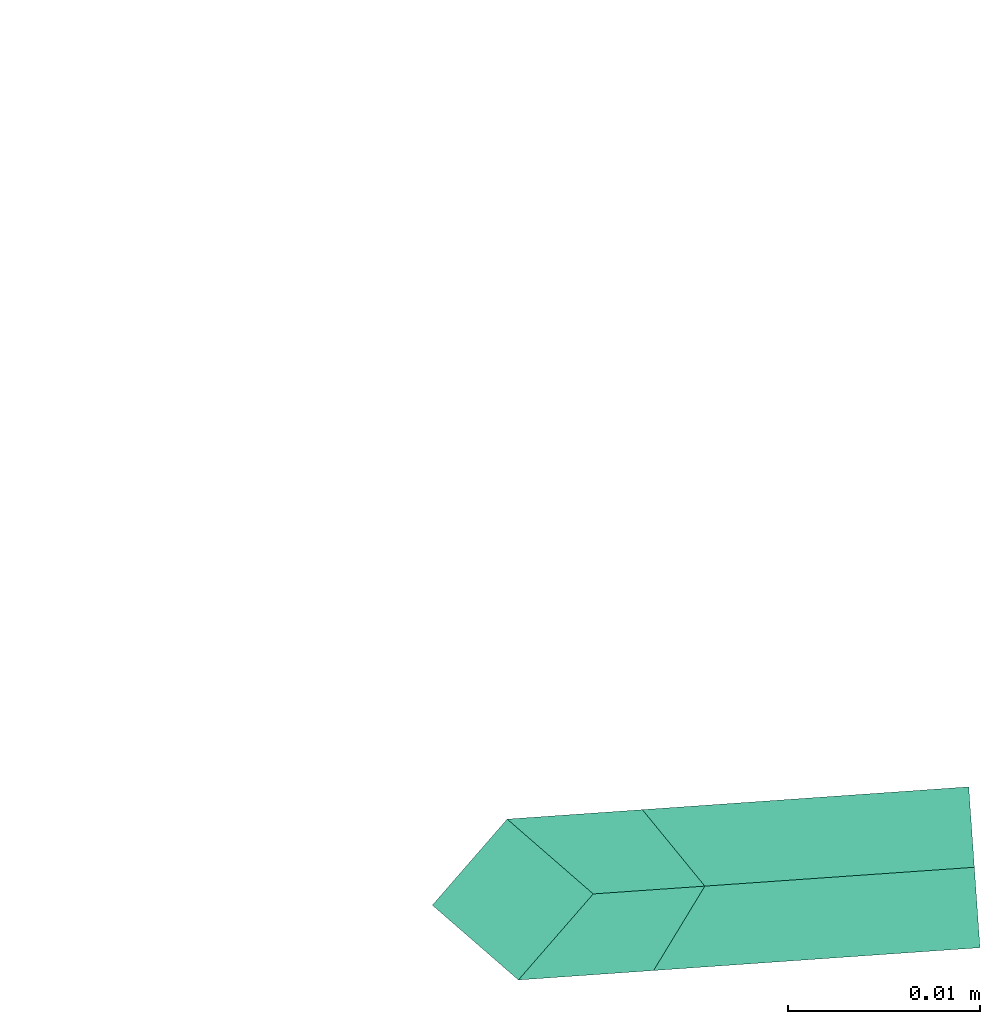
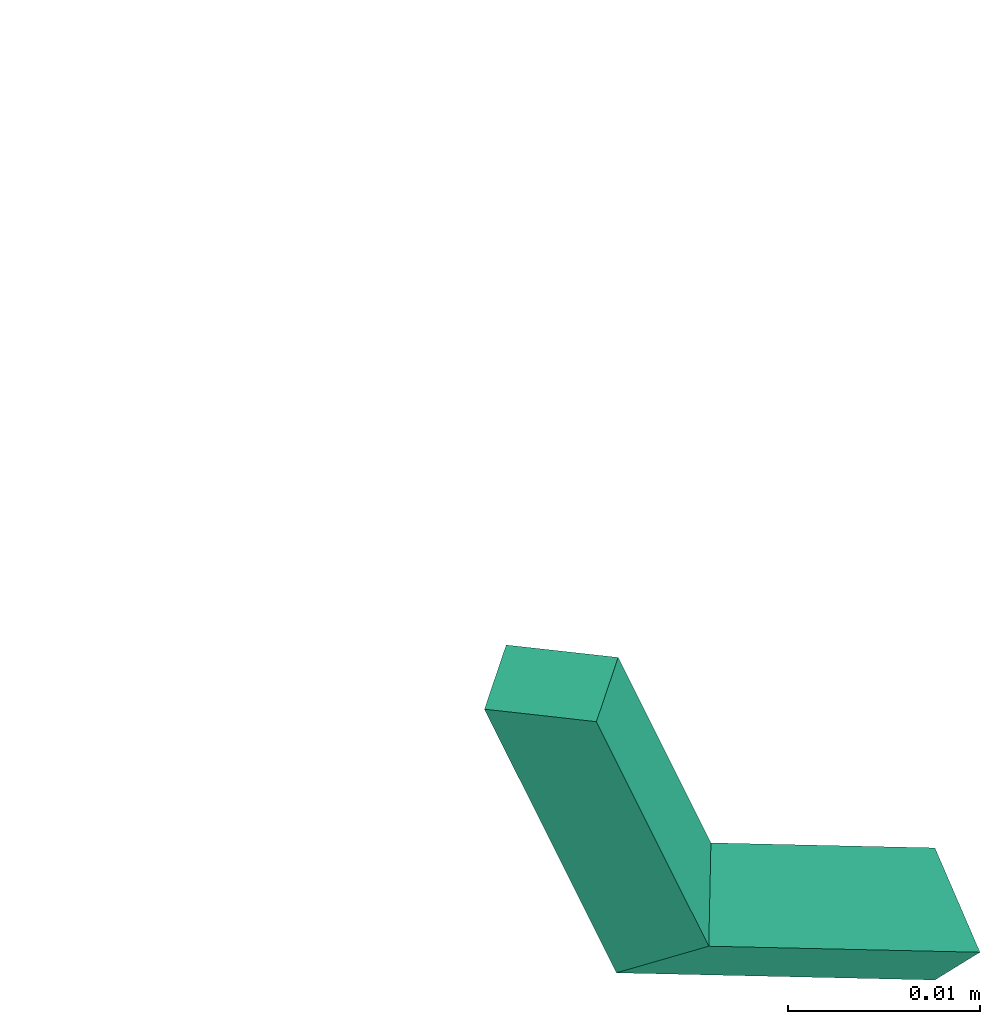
# One storey, part 5 of 8: 1 flow fitting.
"""IFC2X3 building model written with IfcOpenShell, lengths in metres."""

from ifc_helpers import new_model, entity, si_unit, converted_unit, derived_unit, direction, frame, origin, place, context, subcontext, project, spatial, faceted_brep, source, transform, mapped, material, type_object, type_shapes, element, save


model = new_model("IFC2X3")

# Units and contexts
model_context = context("Model", 3, precision=1e-05, world=origin(), true_north=direction((6.123031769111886e-17, 1.0)))
body_context = subcontext(model_context, "Body", "Model", "MODEL_VIEW")
ifc_project = project(units=[si_unit("LENGTHUNIT", "METRE"), si_unit("AREAUNIT", "SQUARE_METRE"), si_unit("VOLUMEUNIT", "CUBIC_METRE"), converted_unit("PLANEANGLEUNIT", "DEGREE", entity("IfcPlaneAngleMeasure", 0.017453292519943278), si_unit("PLANEANGLEUNIT", "RADIAN"), dimensions=[0, 0, 0, 0, 0, 0, 0]), si_unit("MASSUNIT", "GRAM", prefix="KILO"), derived_unit("MASSDENSITYUNIT", [(si_unit("MASSUNIT", "GRAM", prefix="KILO"), 1), (si_unit("LENGTHUNIT", "METRE"), -3)]), derived_unit("IONCONCENTRATIONUNIT", [(si_unit("MASSUNIT", "GRAM", prefix="KILO"), 1), (si_unit("LENGTHUNIT", "METRE"), -3)]), derived_unit("MOMENTOFINERTIAUNIT", [(si_unit("LENGTHUNIT", "METRE"), 4)]), si_unit("TIMEUNIT", "SECOND"), si_unit("FREQUENCYUNIT", "HERTZ"), si_unit("THERMODYNAMICTEMPERATUREUNIT", "DEGREE_CELSIUS"), derived_unit("THERMALTRANSMITTANCEUNIT", [(si_unit("MASSUNIT", "GRAM", prefix="KILO"), 1), (si_unit("THERMODYNAMICTEMPERATUREUNIT", "KELVIN"), -1), (si_unit("TIMEUNIT", "SECOND"), -3)]), derived_unit("THERMALCONDUCTANCEUNIT", [(si_unit("MASSUNIT", "GRAM", prefix="KILO"), 1), (si_unit("THERMODYNAMICTEMPERATUREUNIT", "KELVIN"), -1), (si_unit("TIMEUNIT", "SECOND"), -3), (si_unit("LENGTHUNIT", "METRE"), 1)]), derived_unit("VOLUMETRICFLOWRATEUNIT", [(si_unit("LENGTHUNIT", "METRE", prefix="DECI"), 3), (si_unit("TIMEUNIT", "SECOND"), -1)]), derived_unit("MASSFLOWRATEUNIT", [(si_unit("MASSUNIT", "GRAM", prefix="KILO"), 1), (si_unit("TIMEUNIT", "SECOND"), -1)]), derived_unit("ROTATIONALFREQUENCYUNIT", [(si_unit("TIMEUNIT", "SECOND"), -1)]), si_unit("ELECTRICCURRENTUNIT", "AMPERE"), si_unit("ELECTRICVOLTAGEUNIT", "VOLT"), si_unit("POWERUNIT", "WATT"), si_unit("FORCEUNIT", "NEWTON", prefix="KILO"), si_unit("ILLUMINANCEUNIT", "LUX"), si_unit("LUMINOUSFLUXUNIT", "LUMEN"), si_unit("LUMINOUSINTENSITYUNIT", "CANDELA"), si_unit("ENERGYUNIT", "JOULE"), derived_unit("USERDEFINED", [(si_unit("MASSUNIT", "GRAM", prefix="KILO"), -1), (si_unit("LENGTHUNIT", "METRE"), -2), (si_unit("TIMEUNIT", "SECOND"), 3), (si_unit("LUMINOUSFLUXUNIT", "LUMEN"), 1)]), derived_unit("USERDEFINED", [(si_unit("MASSUNIT", "GRAM", prefix="KILO"), 1), (si_unit("TIMEUNIT", "SECOND"), -3), (si_unit("LENGTHUNIT", "METRE"), 3), (si_unit("ELECTRICCURRENTUNIT", "AMPERE"), -2)]), derived_unit("SOUNDPOWERUNIT", [(si_unit("MASSUNIT", "GRAM", prefix="KILO"), 1), (si_unit("TIMEUNIT", "SECOND"), -3), (si_unit("LENGTHUNIT", "METRE"), 2)]), derived_unit("SOUNDPRESSUREUNIT", [(si_unit("MASSUNIT", "GRAM", prefix="KILO"), 1), (si_unit("LENGTHUNIT", "METRE"), -1), (si_unit("TIMEUNIT", "SECOND"), -2)]), derived_unit("LINEARVELOCITYUNIT", [(si_unit("LENGTHUNIT", "METRE"), 1), (si_unit("TIMEUNIT", "SECOND"), -1)]), si_unit("PRESSUREUNIT", "PASCAL"), derived_unit("USERDEFINED", [(si_unit("MASSUNIT", "GRAM", prefix="KILO"), 1), (si_unit("LENGTHUNIT", "METRE"), -2), (si_unit("TIMEUNIT", "SECOND"), -2)]), derived_unit("LINEARFORCEUNIT", [(si_unit("MASSUNIT", "GRAM", prefix="KILO"), 1), (si_unit("TIMEUNIT", "SECOND"), -2)]), derived_unit("PLANARFORCEUNIT", [(si_unit("MASSUNIT", "GRAM", prefix="KILO"), 1), (si_unit("LENGTHUNIT", "METRE"), -1), (si_unit("TIMEUNIT", "SECOND"), -2)]), derived_unit("SPECIFICHEATCAPACITYUNIT", [(si_unit("THERMODYNAMICTEMPERATUREUNIT", "KELVIN"), -1), (si_unit("LENGTHUNIT", "METRE"), 2), (si_unit("TIMEUNIT", "SECOND"), -2)]), derived_unit("HEATFLUXDENSITYUNIT", [(si_unit("MASSUNIT", "GRAM", prefix="KILO"), 1), (si_unit("TIMEUNIT", "SECOND"), -3)]), derived_unit("HEATINGVALUEUNIT", [(si_unit("LENGTHUNIT", "METRE"), 2), (si_unit("TIMEUNIT", "SECOND"), -2)]), derived_unit("VAPORPERMEABILITYUNIT", [(si_unit("LENGTHUNIT", "METRE"), -1), (si_unit("TIMEUNIT", "SECOND"), 1)]), derived_unit("DYNAMICVISCOSITYUNIT", [(si_unit("MASSUNIT", "GRAM", prefix="KILO"), 1), (si_unit("TIMEUNIT", "SECOND"), -1), (si_unit("LENGTHUNIT", "METRE"), -1)]), derived_unit("THERMALEXPANSIONCOEFFICIENTUNIT", [(si_unit("THERMODYNAMICTEMPERATUREUNIT", "KELVIN"), -1)]), derived_unit("MODULUSOFELASTICITYUNIT", [(si_unit("MASSUNIT", "GRAM", prefix="KILO"), 1), (si_unit("LENGTHUNIT", "METRE"), -1), (si_unit("TIMEUNIT", "SECOND"), -2)]), derived_unit("ISOTHERMALMOISTURECAPACITYUNIT", [(si_unit("MASSUNIT", "GRAM", prefix="KILO"), -1), (si_unit("LENGTHUNIT", "METRE"), 3)]), derived_unit("MOISTUREDIFFUSIVITYUNIT", [(si_unit("TIMEUNIT", "SECOND"), -1), (si_unit("LENGTHUNIT", "METRE"), 2)]), derived_unit("MASSPERLENGTHUNIT", [(si_unit("MASSUNIT", "GRAM", prefix="KILO"), 1), (si_unit("LENGTHUNIT", "METRE"), -1)]), derived_unit("THERMALRESISTANCEUNIT", [(si_unit("MASSUNIT", "GRAM", prefix="KILO"), -1), (si_unit("TIMEUNIT", "SECOND"), 3), (si_unit("THERMODYNAMICTEMPERATUREUNIT", "KELVIN"), 1)]), derived_unit("ACCELERATIONUNIT", [(si_unit("LENGTHUNIT", "METRE"), 1), (si_unit("TIMEUNIT", "SECOND"), -2)]), derived_unit("ANGULARVELOCITYUNIT", [(si_unit("TIMEUNIT", "SECOND"), -1), (si_unit("PLANEANGLEUNIT", "RADIAN"), 1)]), derived_unit("LINEARSTIFFNESSUNIT", [(si_unit("MASSUNIT", "GRAM", prefix="KILO"), 1), (si_unit("TIMEUNIT", "SECOND"), -2)]), derived_unit("WARPINGCONSTANTUNIT", [(si_unit("LENGTHUNIT", "METRE"), 6)]), derived_unit("LINEARMOMENTUNIT", [(si_unit("MASSUNIT", "GRAM", prefix="KILO"), 1), (si_unit("LENGTHUNIT", "METRE"), 1), (si_unit("TIMEUNIT", "SECOND"), -2)]), derived_unit("TORQUEUNIT", [(si_unit("MASSUNIT", "GRAM", prefix="KILO"), 1), (si_unit("LENGTHUNIT", "METRE"), 2), (si_unit("TIMEUNIT", "SECOND"), -2)])], contexts=[model_context])

# Site, building, storey
site_placement = place(None, origin())
site = spatial("IfcSite", under=ifc_project, at=site_placement, Name="Default", CompositionType="ELEMENT")
building_placement = place(site_placement, origin())
building = spatial("IfcBuilding", under=site, at=building_placement, CompositionType="ELEMENT")
storey_placement = place(building_placement, origin())
storey = spatial("IfcBuildingStorey", under=building, at=storey_placement, Name="Niveau 0", CompositionType="ELEMENT", Elevation=-1.949160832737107e-14)

# Flow fitting
ifc_material = material(Name="Cuivre")
pipe_fitting_type = type_object("IfcPipeFittingType", Name="Coude - tube frigo:Standard", PredefinedType="NOTDEFINED", material=ifc_material)
shared_shape = source(origin(), body_context, "Body", "Brep", [
    faceted_brep([(-0.004088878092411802, 0.004088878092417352, 0.0), (-0.007058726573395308, 0.007058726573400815, -0.004200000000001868), (0.0, 0.024099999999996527, -0.004200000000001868), (0.0042000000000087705, 0.024099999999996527, 0.0), (-0.010028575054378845, 0.010028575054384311, 0.0), (-0.00419999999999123, 0.024099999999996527, 0.0), (-0.00705872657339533, 0.007058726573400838, 0.004199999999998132), (0.0, 0.024099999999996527, 0.004199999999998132), (-0.024099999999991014, -0.004200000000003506, 0.0), (-0.024099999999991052, 0.0, -0.004200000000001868), (-0.02409999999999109, 0.0041999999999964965, 0.0), (-0.024099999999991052, 0.0, 0.004199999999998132)], [[[0, 1, 2, 3]], [[1, 4, 5, 2]], [[4, 6, 7, 5]], [[6, 0, 3, 7]], [[8, 9, 1, 0]], [[9, 10, 4, 1]], [[10, 11, 6, 4]], [[11, 8, 0, 6]], [[3, 2, 5, 7]], [[11, 10, 9, 8]]]),
])
type_shapes(pipe_fitting_type, [shared_shape])
flow_fitting_placement = place(storey_placement, frame((0.10687809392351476, -1.6456821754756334, -10.0), z_axis=(0.06975647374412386, -0.9975640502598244, 0.0), x_axis=(0.0, 0.0, -1.0)))
element("IfcFlowFitting", 1, at=flow_fitting_placement, inside=storey, type_object=pipe_fitting_type, material=ifc_material, Name="Coude - tube frigo:Standard", ObjectType="Coude - tube frigo:Standard", context=body_context, shape_type="MappedRepresentation", body=[
    mapped(shared_shape, transform((0.0, 0.0, 0.0), scale=1.0)),
])

save(model, "model.ifc")
